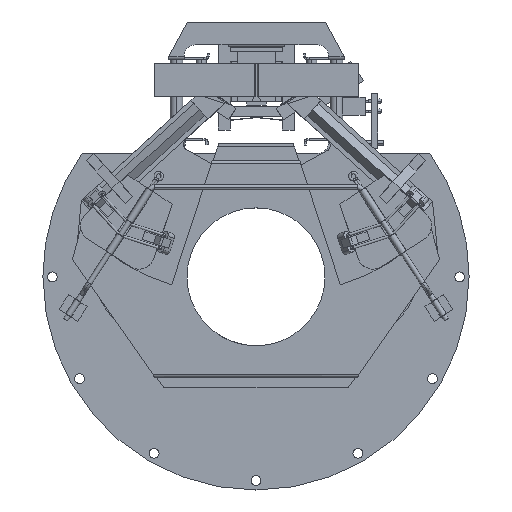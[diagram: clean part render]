
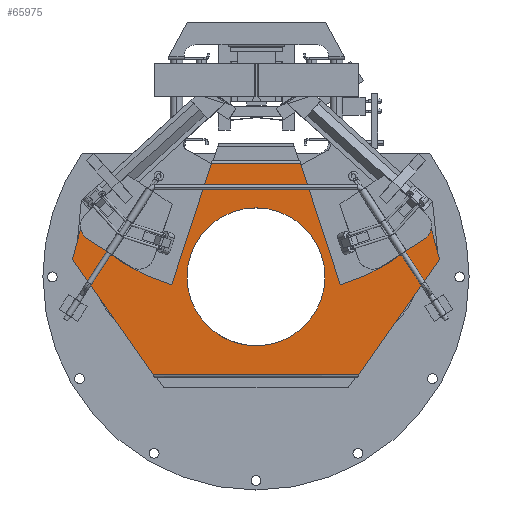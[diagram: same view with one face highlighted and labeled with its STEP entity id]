
A CAD part, top view. The second image highlights one B-rep face of the part: STEP entity #65975.
In plain terms, the highlighted planar face has unit normal (0, 0, 1).
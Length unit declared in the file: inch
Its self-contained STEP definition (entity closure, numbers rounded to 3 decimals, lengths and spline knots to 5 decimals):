
#588 = CARTESIAN_POINT ( 'NONE',  ( -1.02503, -0.975, 0.07 ) ) ;
#594 = CARTESIAN_POINT ( 'NONE',  ( -0.6875, 0., 0.07 ) ) ;
#598 = CIRCLE ( 'NONE', #643, 0.6875 ) ;
#640 = DIRECTION ( 'NONE',  ( -1., 0., 0. ) ) ;
#641 = DIRECTION ( 'NONE',  ( 0., 0., -1. ) ) ;
#642 = CARTESIAN_POINT ( 'NONE',  ( 0., 0., 0.07 ) ) ;
#643 = AXIS2_PLACEMENT_3D ( 'NONE', #642, #641, #640 ) ;
#692 = CARTESIAN_POINT ( 'NONE',  ( -0.385, 1.312, 0.07 ) ) ;
#693 = LINE ( 'NONE', #692, #708 ) ;
#707 = DIRECTION ( 'NONE',  ( 0.311, 0.95, 0. ) ) ;
#708 = VECTOR ( 'NONE', #707, 39.37008 ) ;
#727 = DIRECTION ( 'NONE',  ( 0.311, -0.95, 0. ) ) ;
#728 = VECTOR ( 'NONE', #727, 39.37008 ) ;
#729 = CARTESIAN_POINT ( 'NONE',  ( 0.385, 1.312, 0.07 ) ) ;
#730 = LINE ( 'NONE', #729, #728 ) ;
#731 = FACE_BOUND ( 'NONE', #65969, .T. ) ;
#732 = DIRECTION ( 'NONE',  ( 1., 0., 0. ) ) ;
#733 = DIRECTION ( 'NONE',  ( 0., 0., 1. ) ) ;
#734 = CARTESIAN_POINT ( 'NONE',  ( 0.281, 1.82, 0.07 ) ) ;
#735 = AXIS2_PLACEMENT_3D ( 'NONE', #734, #733, #732 ) ;
#737 = CIRCLE ( 'NONE', #735, 1.98 ) ;
#738 = CARTESIAN_POINT ( 'NONE',  ( 1.83, 0.17461, 0.07 ) ) ;
#739 = CARTESIAN_POINT ( 'NONE',  ( 0.44386, 1.132, 0.07 ) ) ;
#740 = DIRECTION ( 'NONE',  ( -0.574, -0.819, 0. ) ) ;
#741 = VECTOR ( 'NONE', #740, 39.37008 ) ;
#742 = CARTESIAN_POINT ( 'NONE',  ( 1.83, 0.17461, 0.07 ) ) ;
#743 = CARTESIAN_POINT ( 'NONE',  ( -1.74602, 0.48804, 0.07 ) ) ;
#746 = CARTESIAN_POINT ( 'NONE',  ( 0.6875, 0., 0.07 ) ) ;
#747 = DIRECTION ( 'NONE',  ( 0.259, -0.966, 0. ) ) ;
#748 = VECTOR ( 'NONE', #747, 39.37008 ) ;
#749 = CARTESIAN_POINT ( 'NONE',  ( 1.74602, 0.48804, 0.07 ) ) ;
#750 = LINE ( 'NONE', #749, #748 ) ;
#751 = LINE ( 'NONE', #742, #741 ) ;
#757 = CARTESIAN_POINT ( 'NONE',  ( -1.83, 0.17461, 0.07 ) ) ;
#758 = CARTESIAN_POINT ( 'NONE',  ( -0.44386, 1.132, 0.07 ) ) ;
#775 = CARTESIAN_POINT ( 'NONE',  ( 0., 0., 0.07 ) ) ;
#776 = DIRECTION ( 'NONE',  ( 1., 0., 0. ) ) ;
#777 = VECTOR ( 'NONE', #776, 39.37008 ) ;
#778 = CARTESIAN_POINT ( 'NONE',  ( -0.281, -0.975, 0.07 ) ) ;
#779 = LINE ( 'NONE', #778, #777 ) ;
#780 = AXIS2_PLACEMENT_3D ( 'NONE', #823, #822, #821 ) ;
#782 = CARTESIAN_POINT ( 'NONE',  ( 0.84, -0.07945, 0.07 ) ) ;
#784 = FACE_OUTER_BOUND ( 'NONE', #65981, .T. ) ;
#789 = PLANE ( 'NONE',  #780 ) ;
#790 = CARTESIAN_POINT ( 'NONE',  ( 1.74602, 0.48804, 0.07 ) ) ;
#791 = DIRECTION ( 'NONE',  ( 0.259, 0.966, 0. ) ) ;
#792 = VECTOR ( 'NONE', #791, 39.37008 ) ;
#793 = CARTESIAN_POINT ( 'NONE',  ( -1.74602, 0.48804, 0.07 ) ) ;
#794 = LINE ( 'NONE', #793, #792 ) ;
#808 = DIRECTION ( 'NONE',  ( -0.574, 0.819, 0. ) ) ;
#809 = VECTOR ( 'NONE', #808, 39.37008 ) ;
#810 = CARTESIAN_POINT ( 'NONE',  ( -1.83, 0.17461, 0.07 ) ) ;
#811 = LINE ( 'NONE', #810, #809 ) ;
#812 = CARTESIAN_POINT ( 'NONE',  ( -0.84, -0.07945, 0.07 ) ) ;
#813 = CARTESIAN_POINT ( 'NONE',  ( 1.02503, -0.975, 0.07 ) ) ;
#815 = DIRECTION ( 'NONE',  ( -1., 0., 0. ) ) ;
#816 = AXIS2_PLACEMENT_3D ( 'NONE', #775, #824, #815 ) ;
#821 = DIRECTION ( 'NONE',  ( -1., 0., 0. ) ) ;
#822 = DIRECTION ( 'NONE',  ( 0., 0., -1. ) ) ;
#823 = CARTESIAN_POINT ( 'NONE',  ( -0.281, 1.82, 0.07 ) ) ;
#824 = DIRECTION ( 'NONE',  ( 0., 0., -1. ) ) ;
#825 = CIRCLE ( 'NONE', #816, 0.6875 ) ;
#936 = AXIS2_PLACEMENT_3D ( 'NONE', #943, #949, #1000 ) ;
#938 = CIRCLE ( 'NONE', #936, 1.98 ) ;
#943 = CARTESIAN_POINT ( 'NONE',  ( -0.281, 1.82, 0.07 ) ) ;
#949 = DIRECTION ( 'NONE',  ( 0., 0., 1. ) ) ;
#990 = DIRECTION ( 'NONE',  ( 1., 0., 0. ) ) ;
#991 = VECTOR ( 'NONE', #990, 39.37008 ) ;
#992 = CARTESIAN_POINT ( 'NONE',  ( -0.281, 1.132, 0.07 ) ) ;
#993 = LINE ( 'NONE', #992, #991 ) ;
#1000 = DIRECTION ( 'NONE',  ( -1., 0., 0. ) ) ;
#65904 = VERTEX_POINT ( 'NONE', #588 ) ;
#65909 = VERTEX_POINT ( 'NONE', #594 ) ;
#65911 = EDGE_CURVE ( 'NONE', #65967, #65909, #598, .T. ) ;
#65942 = ORIENTED_EDGE ( 'NONE', *, *, #66024, .F. ) ;
#65943 = EDGE_CURVE ( 'NONE', #65985, #65960, #693, .T. ) ;
#65945 = ORIENTED_EDGE ( 'NONE', *, *, #65943, .F. ) ;
#65948 = ORIENTED_EDGE ( 'NONE', *, *, #66022, .F. ) ;
#65951 = ORIENTED_EDGE ( 'NONE', *, *, #65970, .F. ) ;
#65953 = EDGE_CURVE ( 'NONE', #65973, #65983, #750, .T. ) ;
#65954 = VERTEX_POINT ( 'NONE', #757 ) ;
#65955 = ORIENTED_EDGE ( 'NONE', *, *, #65957, .F. ) ;
#65956 = ORIENTED_EDGE ( 'NONE', *, *, #65974, .T. ) ;
#65957 = EDGE_CURVE ( 'NONE', #65983, #65979, #751, .T. ) ;
#65958 = ORIENTED_EDGE ( 'NONE', *, *, #65966, .F. ) ;
#65960 = VERTEX_POINT ( 'NONE', #758 ) ;
#65961 = VERTEX_POINT ( 'NONE', #739 ) ;
#65962 = ORIENTED_EDGE ( 'NONE', *, *, #65953, .F. ) ;
#65963 = EDGE_CURVE ( 'NONE', #65984, #65973, #737, .T. ) ;
#65964 = VERTEX_POINT ( 'NONE', #743 ) ;
#65965 = ORIENTED_EDGE ( 'NONE', *, *, #65963, .F. ) ;
#65966 = EDGE_CURVE ( 'NONE', #65961, #65984, #730, .T. ) ;
#65967 = VERTEX_POINT ( 'NONE', #746 ) ;
#65969 = EDGE_LOOP ( 'NONE', ( #65978, #65980 ) ) ;
#65970 = EDGE_CURVE ( 'NONE', #65954, #65964, #794, .T. ) ;
#65973 = VERTEX_POINT ( 'NONE', #790 ) ;
#65974 = EDGE_CURVE ( 'NONE', #65904, #65979, #779, .T. ) ;
#65975 = ADVANCED_FACE ( 'NONE', ( #731, #784 ), #789, .F. ) ;
#65976 = EDGE_CURVE ( 'NONE', #65909, #65967, #825, .T. ) ;
#65977 = EDGE_CURVE ( 'NONE', #65904, #65954, #811, .T. ) ;
#65978 = ORIENTED_EDGE ( 'NONE', *, *, #65911, .T. ) ;
#65979 = VERTEX_POINT ( 'NONE', #813 ) ;
#65980 = ORIENTED_EDGE ( 'NONE', *, *, #65976, .T. ) ;
#65981 = EDGE_LOOP ( 'NONE', ( #65982, #65956, #65955, #65962, #65965, #65958, #65942, #65945, #65948, #65951 ) ) ;
#65982 = ORIENTED_EDGE ( 'NONE', *, *, #65977, .F. ) ;
#65983 = VERTEX_POINT ( 'NONE', #738 ) ;
#65984 = VERTEX_POINT ( 'NONE', #782 ) ;
#65985 = VERTEX_POINT ( 'NONE', #812 ) ;
#66022 = EDGE_CURVE ( 'NONE', #65964, #65985, #938, .T. ) ;
#66024 = EDGE_CURVE ( 'NONE', #65960, #65961, #993, .T. ) ;
